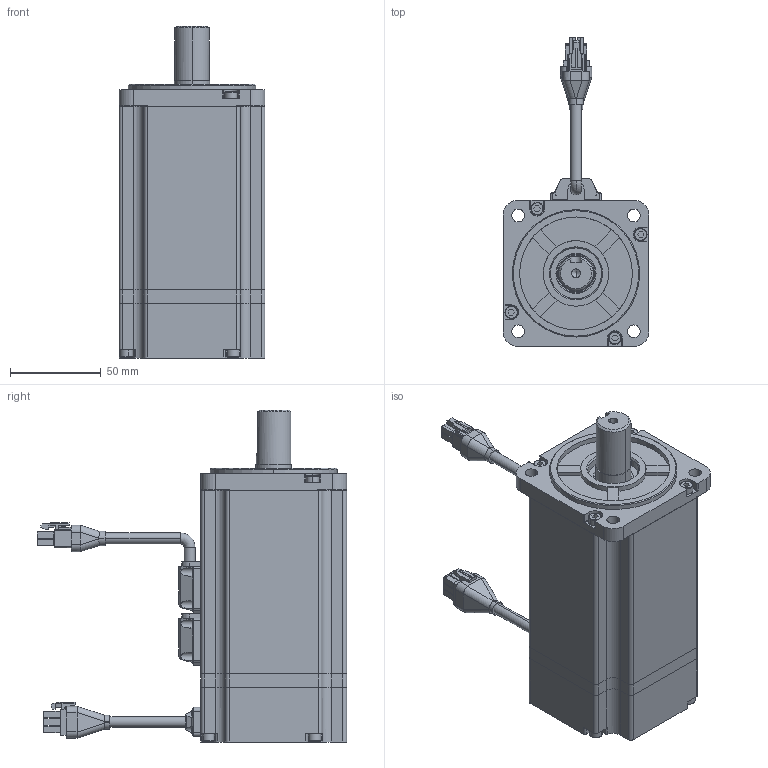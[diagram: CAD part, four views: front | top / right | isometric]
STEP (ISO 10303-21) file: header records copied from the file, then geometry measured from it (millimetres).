
FILE_DESCRIPTION (( 'STEP AP203' ), '1' );
FILE_NAME ('750W-002.STEP', '2019-08-11T09:08:19', ( '1' ), ( 'MideaGroup IT' ), 'SwSTEP 2.0', 'SolidWorks 2012', '' );
FILE_SCHEMA (( 'CONFIG_CONTROL_DESIGN' ));
Length unit declared in the file: millimetre
Products named in the file (20): 750W-002; 毀嚏盄揤裔郪璃; 毀嚏盄傷赽揤裔; 晤鎢ん盄傷赽; 晤鎢ん盄揤裔躇猾; 晤鎢ん盄揤裔; 雄薯盄揤裔郪璃; 雄薯盄傷赽裔; M2.5X5_GB_CROSS_SCREWS_TYPE3 M2.5X8-8-N; 雄薯盄; 雄薯盄傷赽; 雄薯盄躇猾菜; 雄薯盄揤裔; 萇儂粣-001; 6004_Rolling bearings 6004 GB 276-94; M4x20; 綴裔-001; ヶ傷裔-001; 綴傷裔-001; 儂褲-001
Assembly tree (39 placements, depth 3):
  750W-002
    儂褲-001
    綴傷裔-001
    ヶ傷裔-001
    綴裔-001
    M4x20  x8
    6004_Rolling bearings 6004 GB 276-94
    萇儂粣-001
    雄薯盄揤裔郪璃
      雄薯盄揤裔
      雄薯盄躇猾菜
      雄薯盄傷赽
      雄薯盄
      M2.5X5_GB_CROSS_SCREWS_TYPE3 M2.5X8-8-N  x4
      雄薯盄傷赽裔
    毀嚏盄揤裔郪璃
      晤鎢ん盄揤裔
      晤鎢ん盄揤裔躇猾
      晤鎢ん盄傷赽
      M2.5X5_GB_CROSS_SCREWS_TYPE3 M2.5X8-8-N  x4
      毀嚏盄傷赽揤裔
    雄薯盄躇猾菜
    雄薯盄揤裔
    M2.5X5_GB_CROSS_SCREWS_TYPE3 M2.5X8-8-N  x4
Bounding box: 80.2 x 170 x 182.5 mm (x, y, z)
Volume: 325537.7 mm3; surface area: 168259.5 mm2
Topology: 39 solids, 65 shells, 1781 faces, 5027 edges, 3348 vertices
Faces by surface type: plane 854, cylinder 685, cone 97, torus 75, sphere 56, bspline 14
Entity records: 46604 total; most frequent: CARTESIAN_POINT 11333, DIRECTION 6836, ORIENTED_EDGE 6697, EDGE_CURVE 3529, AXIS2_PLACEMENT_3D 2461, VERTEX_POINT 2360, VECTOR 1914, LINE 1914
